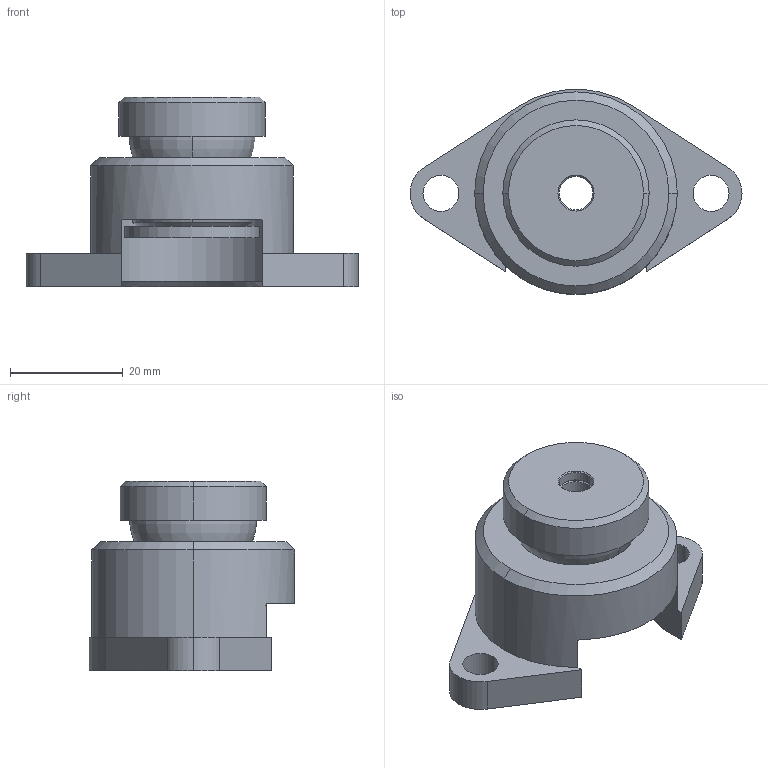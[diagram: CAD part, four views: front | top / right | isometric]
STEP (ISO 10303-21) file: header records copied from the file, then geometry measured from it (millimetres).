
FILE_DESCRIPTION(('STEP AP214'),'1');
FILE_NAME('C:/Transfer Dokumente/EluFlex_040_ZDUM_290726.stp','2026-07-29T15:26:10',(' '),(' '),'Spatial InterOp 3D',' ',' ');
FILE_SCHEMA(('automotive_design'));
Length unit declared in the file: millimetre
Products named in the file (1): 1
Bounding box: 59 x 36.44 x 33.75 mm (x, y, z)
Volume: 19462.8 mm3; surface area: 10139.8 mm2
Topology: 1 solids, 2 shells, 77 faces, 186 edges, 117 vertices
Faces by surface type: cylinder 29, cone 25, plane 17, torus 6
Entity records: 2357 total; most frequent: CARTESIAN_POINT 447, DIRECTION 440, ORIENTED_EDGE 372, EDGE_CURVE 186, AXIS2_PLACEMENT_3D 182, VERTEX_POINT 117, CIRCLE 104, EDGE_LOOP 89
